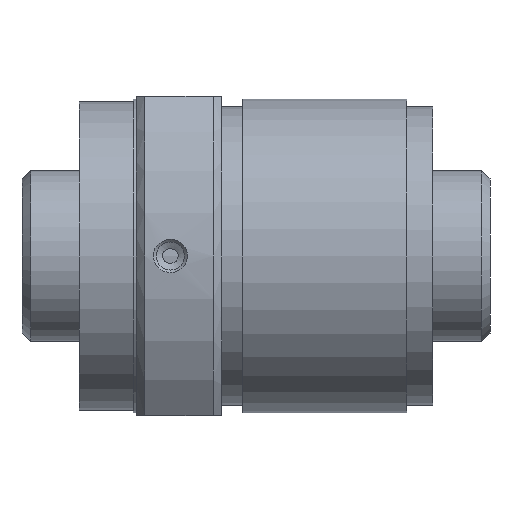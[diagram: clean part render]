
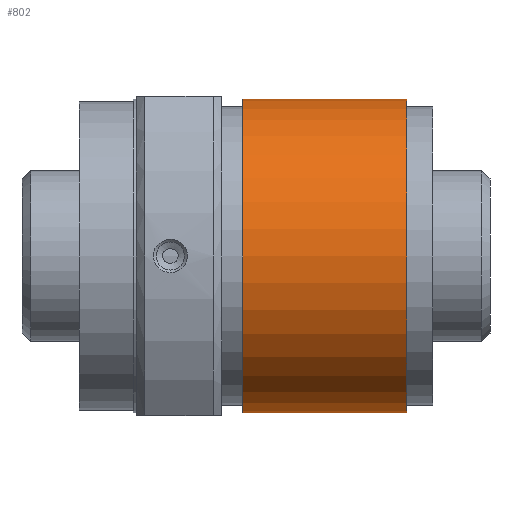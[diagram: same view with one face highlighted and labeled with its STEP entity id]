
A CAD part, front view. The second image highlights one B-rep face of the part: STEP entity #802.
In plain terms, the highlighted cylindrical face has radius 27.5 mm (diameter 55 mm), a full revolution.
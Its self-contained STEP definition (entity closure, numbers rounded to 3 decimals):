
#70=CYLINDRICAL_SURFACE('',#915,27.5);
#148=ORIENTED_EDGE('',*,*,#305,.T.);
#149=ORIENTED_EDGE('',*,*,#304,.F.);
#304=EDGE_CURVE('',#386,#386,#458,.T.);
#305=EDGE_CURVE('',#387,#387,#459,.T.);
#386=VERTEX_POINT('',#1395);
#387=VERTEX_POINT('',#1398);
#458=CIRCLE('',#914,27.5);
#459=CIRCLE('',#916,27.5);
#534=EDGE_LOOP('',(#148));
#535=EDGE_LOOP('',(#149));
#664=FACE_BOUND('',#534,.T.);
#665=FACE_BOUND('',#535,.T.);
#802=ADVANCED_FACE('',(#664,#665),#70,.T.);
#914=AXIS2_PLACEMENT_3D('',#1394,#1089,#1090);
#915=AXIS2_PLACEMENT_3D('',#1396,#1091,#1092);
#916=AXIS2_PLACEMENT_3D('',#1397,#1093,#1094);
#1089=DIRECTION('',(1.,0.,0.));
#1090=DIRECTION('',(0.,0.,-1.));
#1091=DIRECTION('',(1.,0.,0.));
#1092=DIRECTION('',(0.,0.,-1.));
#1093=DIRECTION('',(1.,0.,0.));
#1094=DIRECTION('',(0.,0.,-1.));
#1394=CARTESIAN_POINT('',(57.375,0.,0.));
#1395=CARTESIAN_POINT('',(57.375,0.,-27.5));
#1396=CARTESIAN_POINT('',(62.,0.,0.));
#1397=CARTESIAN_POINT('',(28.7,0.,0.));
#1398=CARTESIAN_POINT('',(28.7,0.,-27.5));
